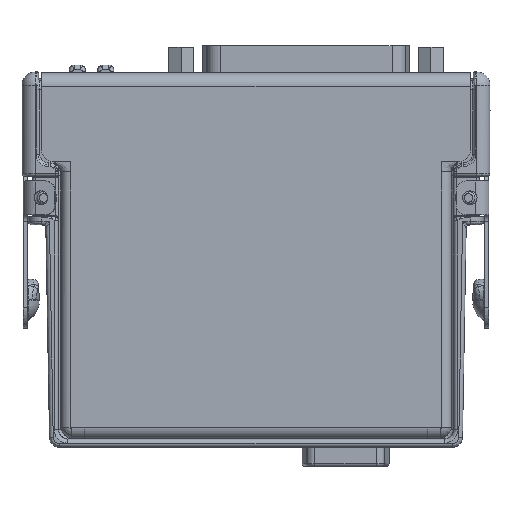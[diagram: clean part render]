
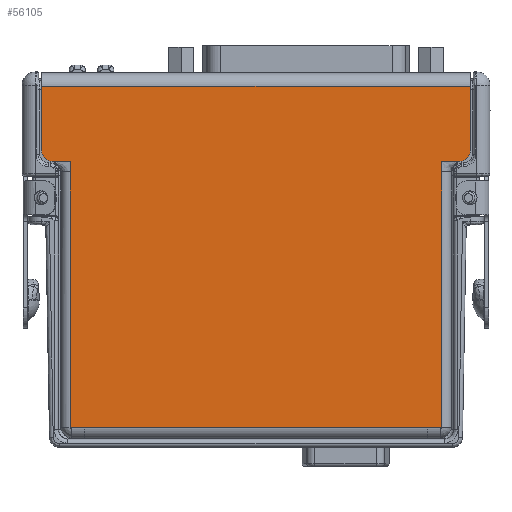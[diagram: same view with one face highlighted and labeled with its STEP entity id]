
A CAD part, left-side view. The second image highlights one B-rep face of the part: STEP entity #56105.
In plain terms, the highlighted planar face has unit normal (-1, 0, 0).
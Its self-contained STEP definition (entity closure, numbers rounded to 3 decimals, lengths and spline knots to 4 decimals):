
#18844=DIRECTION('',(0.,-1.,0.));
#18845=VECTOR('',#18844,2.543);
#18846=CARTESIAN_POINT('',(-0.4475,1.2715,0.146));
#18847=LINE('',#18846,#18845);
#18856=DIRECTION('',(0.,0.,-1.));
#18857=VECTOR('',#18856,0.476);
#18858=CARTESIAN_POINT('',(-0.4475,1.5895,2.676));
#18859=LINE('',#18858,#18857);
#18860=DIRECTION('',(0.,0.,1.));
#18861=VECTOR('',#18860,0.476);
#18862=CARTESIAN_POINT('',(-0.4475,-1.5895,2.2));
#18863=LINE('',#18862,#18861);
#18864=DIRECTION('',(0.,0.,1.));
#18865=VECTOR('',#18864,0.079);
#18866=CARTESIAN_POINT('',(-0.4475,-1.3765,2.041));
#18867=LINE('',#18866,#18865);
#18868=DIRECTION('',(0.,-1.,0.));
#18869=VECTOR('',#18868,0.105);
#18870=CARTESIAN_POINT('',(-0.4475,-1.2715,0.146));
#18871=LINE('',#18870,#18869);
#18872=DIRECTION('',(0.,-1.,0.));
#18873=VECTOR('',#18872,0.105);
#18874=CARTESIAN_POINT('',(-0.4475,1.3765,0.146));
#18875=LINE('',#18874,#18873);
#18876=DIRECTION('',(0.,0.,1.));
#18877=VECTOR('',#18876,0.079);
#18878=CARTESIAN_POINT('',(-0.4475,1.3765,2.041));
#18879=LINE('',#18878,#18877);
#18893=CARTESIAN_POINT('',(-0.4475,1.5095,2.2));
#18894=DIRECTION('',(-1.,0.,0.));
#18895=DIRECTION('',(0.,1.,0.));
#18896=AXIS2_PLACEMENT_3D('',#18893,#18894,#18895);
#18898=DIRECTION('',(0.,-1.,0.));
#18899=VECTOR('',#18898,0.133);
#18900=CARTESIAN_POINT('',(-0.4475,1.5095,2.12));
#18901=LINE('',#18900,#18899);
#18918=DIRECTION('',(0.,0.,1.));
#18919=VECTOR('',#18918,1.895);
#18920=CARTESIAN_POINT('',(-0.4475,1.3765,0.146));
#18921=LINE('',#18920,#18919);
#19373=DIRECTION('',(0.,0.,1.));
#19374=VECTOR('',#19373,1.895);
#19375=CARTESIAN_POINT('',(-0.4475,-1.3765,0.146));
#19376=LINE('',#19375,#19374);
#19408=DIRECTION('',(0.,-1.,0.));
#19409=VECTOR('',#19408,0.133);
#19410=CARTESIAN_POINT('',(-0.4475,-1.3765,2.12));
#19411=LINE('',#19410,#19409);
#19425=CARTESIAN_POINT('',(-0.4475,-1.5095,2.2));
#19426=DIRECTION('',(-1.,0.,0.));
#19427=DIRECTION('',(0.,0.,-1.));
#19428=AXIS2_PLACEMENT_3D('',#19425,#19426,#19427);
#19447=DIRECTION('',(0.,-1.,0.));
#19448=VECTOR('',#19447,3.179);
#19449=CARTESIAN_POINT('',(-0.4475,1.5895,2.676));
#19450=LINE('',#19449,#19448);
#30699=CARTESIAN_POINT('',(-0.4475,-1.5895,2.676));
#30700=VERTEX_POINT('',#30699);
#30701=CARTESIAN_POINT('',(-0.4475,1.5895,2.676));
#30702=VERTEX_POINT('',#30701);
#30731=CARTESIAN_POINT('',(-0.4475,1.2715,0.146));
#30732=CARTESIAN_POINT('',(-0.4475,-1.2715,0.146));
#30733=VERTEX_POINT('',#30731);
#30734=VERTEX_POINT('',#30732);
#30743=CARTESIAN_POINT('',(-0.4475,-1.3765,0.146));
#30744=VERTEX_POINT('',#30743);
#30755=CARTESIAN_POINT('',(-0.4475,1.3765,0.146));
#30756=VERTEX_POINT('',#30755);
#30804=CARTESIAN_POINT('',(-0.4475,1.5095,2.12));
#30806=VERTEX_POINT('',#30804);
#30809=CARTESIAN_POINT('',(-0.4475,1.5895,2.2));
#30810=VERTEX_POINT('',#30809);
#30812=CARTESIAN_POINT('',(-0.4475,-1.5895,2.2));
#30814=VERTEX_POINT('',#30812);
#30817=CARTESIAN_POINT('',(-0.4475,-1.5095,2.12));
#30818=VERTEX_POINT('',#30817);
#30839=CARTESIAN_POINT('',(-0.4475,-1.3765,2.041));
#30840=VERTEX_POINT('',#30839);
#30843=CARTESIAN_POINT('',(-0.4475,-1.3765,2.12));
#30844=VERTEX_POINT('',#30843);
#30851=CARTESIAN_POINT('',(-0.4475,1.3765,2.041));
#30852=CARTESIAN_POINT('',(-0.4475,1.3765,2.12));
#30853=VERTEX_POINT('',#30851);
#30854=VERTEX_POINT('',#30852);
#56072=CARTESIAN_POINT('',(-0.4475,0.,1.421));
#56073=DIRECTION('',(-1.,0.,0.));
#56074=DIRECTION('',(0.,1.,0.));
#56075=AXIS2_PLACEMENT_3D('',#56072,#56073,#56074);
#56076=PLANE('',#56075);
#56078=ORIENTED_EDGE('',*,*,#56077,.F.);
#56080=ORIENTED_EDGE('',*,*,#56079,.F.);
#56082=ORIENTED_EDGE('',*,*,#56081,.T.);
#56084=ORIENTED_EDGE('',*,*,#56083,.F.);
#56086=ORIENTED_EDGE('',*,*,#56085,.F.);
#56088=ORIENTED_EDGE('',*,*,#56087,.F.);
#56090=ORIENTED_EDGE('',*,*,#56089,.F.);
#56092=ORIENTED_EDGE('',*,*,#56091,.F.);
#56093=ORIENTED_EDGE('',*,*,#56062,.F.);
#56094=ORIENTED_EDGE('',*,*,#56038,.F.);
#56096=ORIENTED_EDGE('',*,*,#56095,.F.);
#56098=ORIENTED_EDGE('',*,*,#56097,.T.);
#56100=ORIENTED_EDGE('',*,*,#56099,.T.);
#56102=ORIENTED_EDGE('',*,*,#56101,.F.);
#56103=EDGE_LOOP('',(#56078,#56080,#56082,#56084,#56086,#56088,#56090,#56092,
#56093,#56094,#56096,#56098,#56100,#56102));
#56104=FACE_OUTER_BOUND('',#56103,.F.);
#56105=ADVANCED_FACE('',(#56104),#56076,.T.);
#18897=CIRCLE('',#18896,0.08);
#19429=CIRCLE('',#19428,0.08);
#56038=EDGE_CURVE('',#30733,#30734,#18847,.T.);
#56062=EDGE_CURVE('',#30734,#30744,#18871,.T.);
#56077=EDGE_CURVE('',#30810,#30806,#18897,.T.);
#56079=EDGE_CURVE('',#30702,#30810,#18859,.T.);
#56081=EDGE_CURVE('',#30702,#30700,#19450,.T.);
#56083=EDGE_CURVE('',#30814,#30700,#18863,.T.);
#56085=EDGE_CURVE('',#30818,#30814,#19429,.T.);
#56087=EDGE_CURVE('',#30844,#30818,#19411,.T.);
#56089=EDGE_CURVE('',#30840,#30844,#18867,.T.);
#56091=EDGE_CURVE('',#30744,#30840,#19376,.T.);
#56095=EDGE_CURVE('',#30756,#30733,#18875,.T.);
#56097=EDGE_CURVE('',#30756,#30853,#18921,.T.);
#56099=EDGE_CURVE('',#30853,#30854,#18879,.T.);
#56101=EDGE_CURVE('',#30806,#30854,#18901,.T.);
